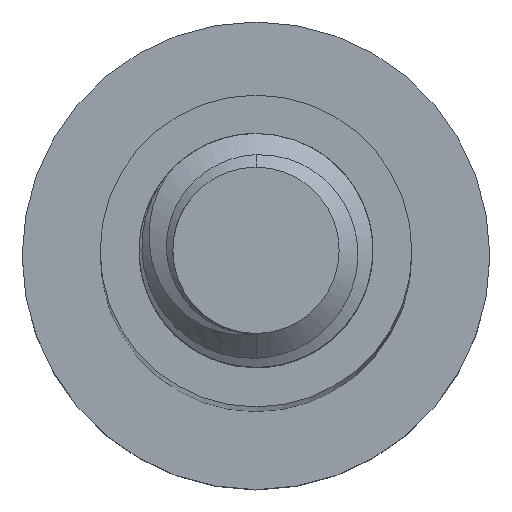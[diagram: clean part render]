
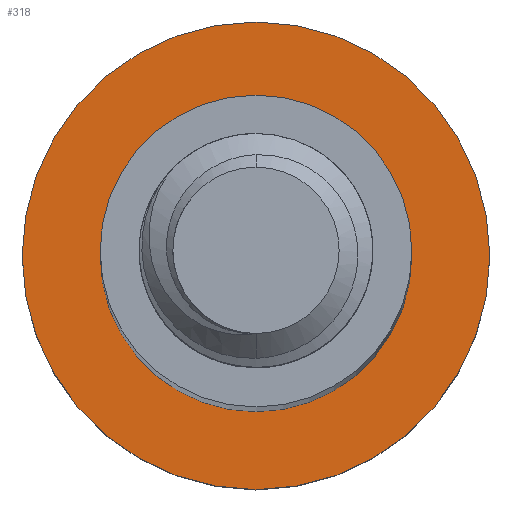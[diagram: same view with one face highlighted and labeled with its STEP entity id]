
A CAD part, top view. The second image highlights one B-rep face of the part: STEP entity #318.
In plain terms, the highlighted planar face has unit normal (0, 0, 1).
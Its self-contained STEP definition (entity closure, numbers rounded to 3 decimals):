
#182 = EDGE_CURVE ( 'NONE', #3440, #3729, #1137, .T. ) ;
#318 = ADVANCED_FACE ( 'NONE', ( #2886, #3589 ), #956, .F. ) ;
#511 = AXIS2_PLACEMENT_3D ( 'NONE', #1455, #3724, #1419 ) ;
#621 = DIRECTION ( 'NONE',  ( 0., 0., -1. ) ) ;
#768 = CARTESIAN_POINT ( 'NONE',  ( 0., 0., -70. ) ) ;
#954 = CARTESIAN_POINT ( 'NONE',  ( 0., 0., -70. ) ) ;
#956 = PLANE ( 'NONE',  #1900 ) ;
#1028 = EDGE_CURVE ( 'NONE', #3642, #2406, #2377, .T. ) ;
#1073 = DIRECTION ( 'NONE',  ( 0., 0., -1. ) ) ;
#1137 = CIRCLE ( 'NONE', #4175, 6. ) ;
#1385 = ORIENTED_EDGE ( 'NONE', *, *, #2170, .F. ) ;
#1419 = DIRECTION ( 'NONE',  ( -1., 0., 0. ) ) ;
#1455 = CARTESIAN_POINT ( 'NONE',  ( 0., 0., -70. ) ) ;
#1529 = AXIS2_PLACEMENT_3D ( 'NONE', #954, #2282, #3820 ) ;
#1670 = CIRCLE ( 'NONE', #3733, 6. ) ;
#1686 = EDGE_LOOP ( 'NONE', ( #3346, #2050 ) ) ;
#1900 = AXIS2_PLACEMENT_3D ( 'NONE', #4195, #621, #2632 ) ;
#1914 = CARTESIAN_POINT ( 'NONE',  ( -6., 0., -70. ) ) ;
#1938 = CARTESIAN_POINT ( 'NONE',  ( 0., 0., -70. ) ) ;
#1983 = DIRECTION ( 'NONE',  ( -1., 0., 0. ) ) ;
#2050 = ORIENTED_EDGE ( 'NONE', *, *, #1028, .T. ) ;
#2128 = EDGE_LOOP ( 'NONE', ( #3320, #1385 ) ) ;
#2170 = EDGE_CURVE ( 'NONE', #3729, #3440, #1670, .T. ) ;
#2282 = DIRECTION ( 'NONE',  ( 0., 0., -1. ) ) ;
#2377 = CIRCLE ( 'NONE', #511, 4. ) ;
#2406 = VERTEX_POINT ( 'NONE', #3106 ) ;
#2570 = DIRECTION ( 'NONE',  ( 0., 0., -1. ) ) ;
#2632 = DIRECTION ( 'NONE',  ( -1., 0., 0. ) ) ;
#2862 = CARTESIAN_POINT ( 'NONE',  ( 6., 0., -70. ) ) ;
#2886 = FACE_BOUND ( 'NONE', #1686, .T. ) ;
#3056 = CIRCLE ( 'NONE', #1529, 4. ) ;
#3060 = DIRECTION ( 'NONE',  ( -1., 0., 0. ) ) ;
#3106 = CARTESIAN_POINT ( 'NONE',  ( -4., 0., -70. ) ) ;
#3320 = ORIENTED_EDGE ( 'NONE', *, *, #182, .F. ) ;
#3323 = EDGE_CURVE ( 'NONE', #2406, #3642, #3056, .T. ) ;
#3346 = ORIENTED_EDGE ( 'NONE', *, *, #3323, .T. ) ;
#3440 = VERTEX_POINT ( 'NONE', #2862 ) ;
#3589 = FACE_OUTER_BOUND ( 'NONE', #2128, .T. ) ;
#3642 = VERTEX_POINT ( 'NONE', #3804 ) ;
#3724 = DIRECTION ( 'NONE',  ( 0., 0., -1. ) ) ;
#3729 = VERTEX_POINT ( 'NONE', #1914 ) ;
#3733 = AXIS2_PLACEMENT_3D ( 'NONE', #1938, #2570, #1983 ) ;
#3804 = CARTESIAN_POINT ( 'NONE',  ( 4., 0., -70. ) ) ;
#3820 = DIRECTION ( 'NONE',  ( -1., 0., 0. ) ) ;
#4175 = AXIS2_PLACEMENT_3D ( 'NONE', #768, #1073, #3060 ) ;
#4195 = CARTESIAN_POINT ( 'NONE',  ( 0., 0., -70. ) ) ;
